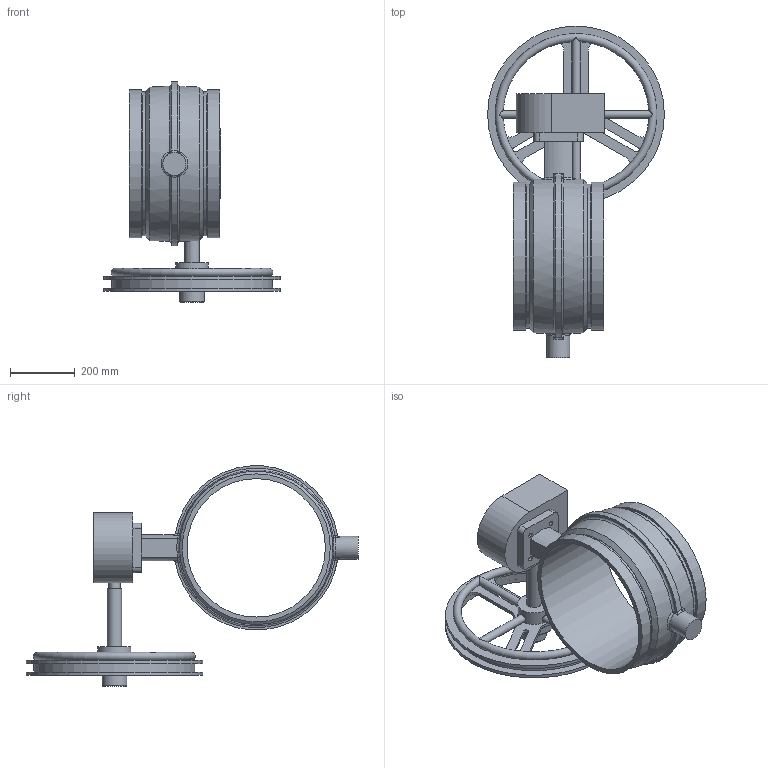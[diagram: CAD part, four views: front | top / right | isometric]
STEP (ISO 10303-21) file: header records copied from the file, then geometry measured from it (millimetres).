
FILE_DESCRIPTION(/* description */ ('VIC AGS VALVE BUTTERFLY VIC-300 MS CW SERIES W761 (AGS)'),/* implementation_level */ '2;1');
FILE_NAME(/* name */ 'C:\Files for Export\W761\STEP\Victaulic_IPS-AGS_Vlv Btfl Vic-300 MS CW_Series W761 (AGS)\Victaulic_IPS-AGS_Vlv Btfl Vic-300 MS CW_Series W761 (AGS)_18 (450).stp',/* time_stamp */ '2024-08-27T14:19:04+02:00',/* author */ ('jheald'),/* organization */ ('Victaulic'),/* preprocessor_version */ 'ST-DEVELOPER v18.1',/* originating_system */ 'Autodesk Inventor 2020',/* authorisation */ '');
FILE_SCHEMA (('AUTOMOTIVE_DESIGN { 1 0 10303 214 3 1 1 }'));
Length unit declared in the file: inch
Products named in the file (1): W761-18.0
Bounding box: 546.1 x 1025.65 x 680.57 mm (x, y, z)
Volume: 20384906.4 mm3; surface area: 1842034.1 mm2
Topology: 1 solids, 1 shells, 155 faces, 447 edges, 293 vertices
Faces by surface type: cylinder 66, plane 53, torus 14, bspline 10, sphere 8, cone 4
Full cylindrical faces by diameter (mm): 14.681 x4, 24.994 x2, 35.56 x1, 44.45 x1, 71.12 x1, 76.2 x1, 101.6 x1, 124.46 x1, 427.609 x1, 444.5 x2, 457.2 x2, 489.712 x1, 497.84 x1, 546.1 x2
Entity records: 6279 total; most frequent: CARTESIAN_POINT 1871, ORIENTED_EDGE 910, DIRECTION 892, EDGE_CURVE 455, AXIS2_PLACEMENT_3D 371, VERTEX_POINT 294, CIRCLE 225, EDGE_LOOP 181
